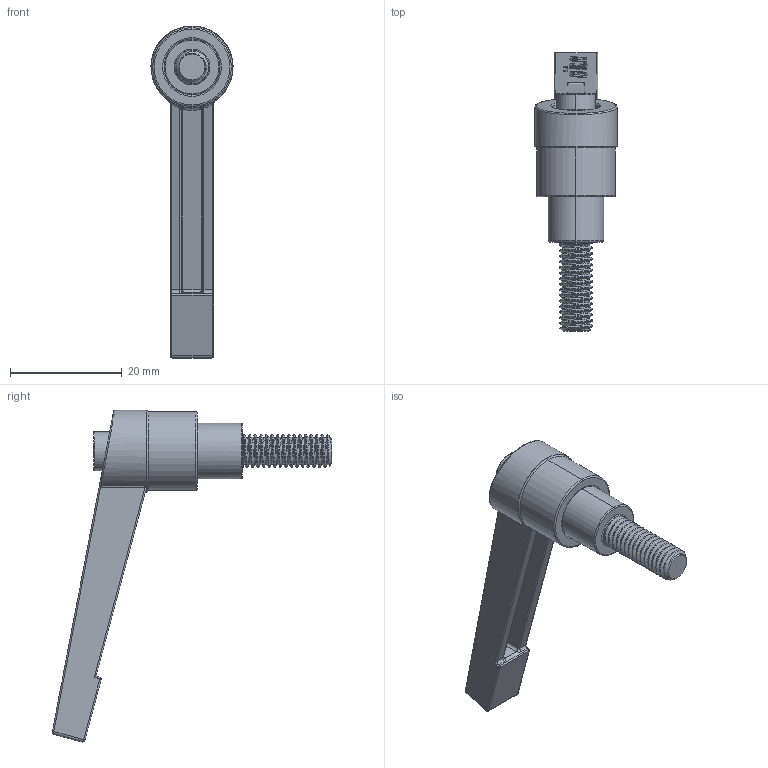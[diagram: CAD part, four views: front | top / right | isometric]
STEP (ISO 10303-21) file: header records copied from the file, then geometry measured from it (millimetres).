
FILE_DESCRIPTION (( 'STEP AP214' ), '1' );
FILE_NAME ('348.0201A.01.STEP', '2021-11-11T09:24:24', ( 'Home' ), ( '' ), 'SwSTEP 2.0', 'SolidWorks 2020', '' );
FILE_SCHEMA (( 'AUTOMOTIVE_DESIGN' ));
Length unit declared in the file: millimetre
Products named in the file (5): 348.0201A.01-3; 348.0201A.01-1; 348.0201A.01-4; 348.0201A.01-2; 348.0201A.01
Assembly tree (4 placements, depth 2):
  348.0201A.01
    348.0201A.01-1
    348.0201A.01-2
    348.0201A.01-3
    348.0201A.01-4
Bounding box: 14.7 x 50.02 x 59.47 mm (x, y, z)
Volume: 5244.9 mm3; surface area: 4998.4 mm2
Topology: 15 solids, 15 shells, 552 faces, 1368 edges, 792 vertices
Faces by surface type: cylinder 169, bspline 162, plane 128, torus 60, sphere 28, cone 5
Entity records: 31904 total; most frequent: CARTESIAN_POINT 19278, ORIENTED_EDGE 2612, DIRECTION 2013, EDGE_CURVE 1306, VERTEX_POINT 790, AXIS2_PLACEMENT_3D 783, EDGE_LOOP 564, ADVANCED_FACE 552
